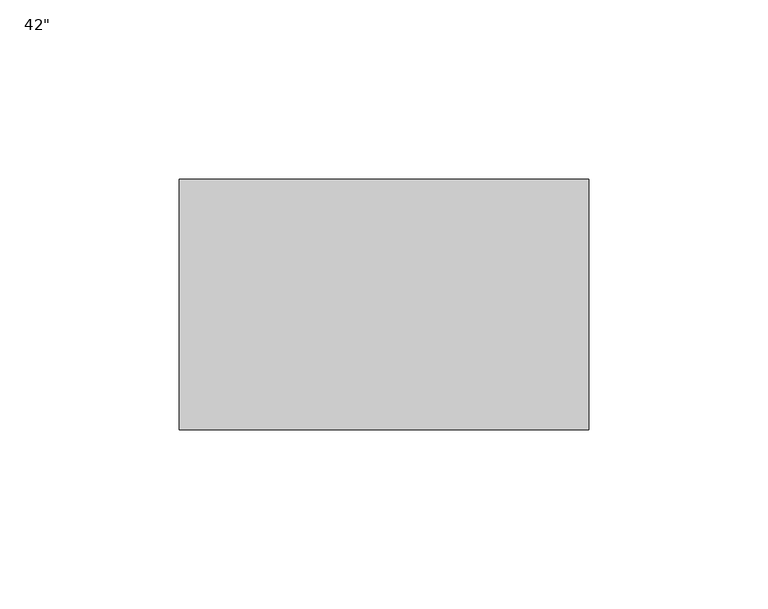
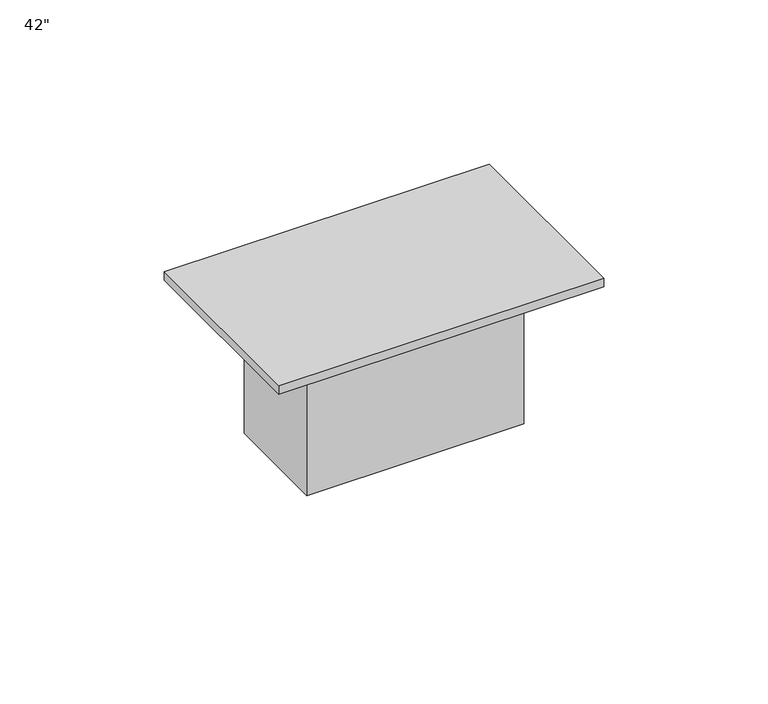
"""IFC4 building model written with IfcOpenShell, lengths in millimetres: proxy geometry."""

from ifc_helpers import new_model, si_unit, frame, origin, origin_with_axes, place, context, project, spatial, polyline, outline, extrude, source, transform, mapped, element, save


def proxy_63c47fc0(model_context):
    return source(origin(), model_context, "Body", "SweptSolid", [
        extrude(outline(polyline([(-38.1, 1085.85), (38.1, 1085.85), (38.1, 1047.75), (-38.1, 1047.75), (-38.1, 1085.85)])), frame((0.0, 0.0, -53.975), z_axis=(0.0, 0.0, 1.0), x_axis=(1.0, 0.0, 0.0)), (0.0, 0.0, 1.0), 53.975),
        extrude(outline(polyline([(-57.15, 1101.725), (57.15, 1101.725), (57.15, 1031.875), (-57.15, 1031.875), (-57.15, 1101.725)])), origin_with_axes(), (0.0, 0.0, 1.0), 3.175),
    ])


if __name__ == "__main__":
    model = new_model("IFC4")
    model_context = context("Model", 3, world=origin())
    ifc_project = project(units=[si_unit("LENGTHUNIT", "METRE", prefix="MILLI")], contexts=[model_context])
    site = spatial("IfcSite", under=ifc_project)
    building = spatial("IfcBuilding", under=site)
    placement = place(None, origin())
    proxy_shape = proxy_63c47fc0(model_context)
    element("IfcBuildingElementProxy", 1, Name="BA_EF - Receptacle Duplex Wall : 42\"", ObjectType="BA_EF - Receptacle Duplex Wall : 42\"", at=placement, inside=building, context=model_context, shape_type="MappedRepresentation", body=[
        mapped(proxy_shape, transform((0.0, 0.0, 0.0), x_axis=(1.0, 0.0, 0.0), y_axis=(0.0, 1.0, 0.0), z_axis=(0.0, 0.0, 1.0))),
    ])
    save(model, "model.ifc")
